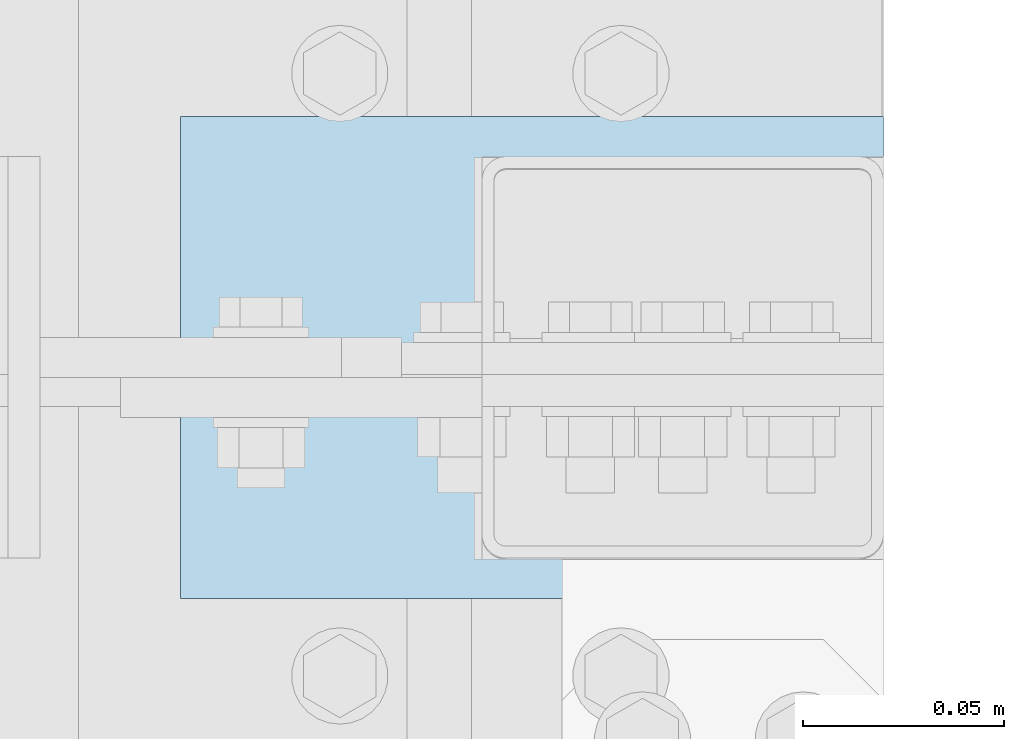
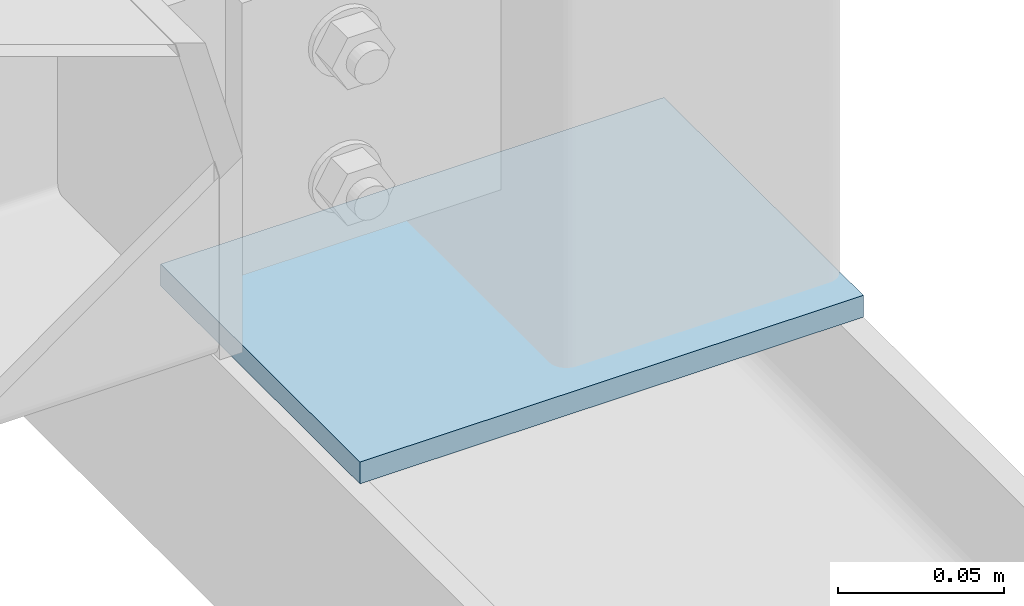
# One storey, part 172 of 271: 1 plate, 1 element without a shape of its own.
"""IFC2X3 building model written with IfcOpenShell, lengths in millimetres."""

import ifcopenshell
import ifcopenshell.guid

model = None  # the IFC model being written
_history = None  # IfcOwnerHistory: only IFC2X3 demands one
_inside = {}  # id of a spatial element -> (the spatial element, [elements in it])
_under = {}  # id of a project, library or spatial element -> (it, [spatial elements below it])
_declared = {}  # id of a project -> (the project, [libraries it declares])
_typed = {}  # id of a type object -> (the type object, [elements of that type])
_made_of = {}  # id of a material, layer set ... -> (it, [elements and type objects made of it])


def new_model(schema):
    """Start an empty IFC model of exactly this schema.

    Asked for "IFC4X3", IfcOpenShell would pick the latest addendum, in which some entities
    have other attributes; the version numbers below select the first issue.
    IFC2X3 requires an IfcOwnerHistory on every rooted entity: one is made here for all.
    """
    global model, _history
    if schema == "IFC4X3":
        model = ifcopenshell.file(schema_version=(4, 3, 0, 0))
    else:
        model = ifcopenshell.file(schema=schema)
    _inside.clear()
    _under.clear()
    _declared.clear()
    _typed.clear()
    _made_of.clear()
    _history = None
    if model.schema == "IFC2X3":
        org = make("IfcOrganization", Name="unknown")
        user = make(
            "IfcPersonAndOrganization",
            ThePerson=make("IfcPerson", FamilyName="unknown"),
            TheOrganization=org,
        )
        app = make(
            "IfcApplication",
            ApplicationDeveloper=org,
            Version="unknown",
            ApplicationFullName="unknown",
            ApplicationIdentifier="unknown",
        )
        _history = make(
            "IfcOwnerHistory",
            OwningUser=user,
            OwningApplication=app,
            ChangeAction="ADDED",
            CreationDate=0,
        )
    return model


def make(cls, **values):
    """One entity of the class cls with the attributes given. An attribute that is None is left unset."""
    return model.create_entity(
        cls, **{name: value for name, value in values.items() if value is not None}
    )


def rooted(cls, **values):
    """An entity with a GlobalId (a new one), such as an element, a storey or a relation."""
    return make(cls, GlobalId=ifcopenshell.guid.new(), OwnerHistory=_history, **values)


def si_unit(unit_type, name, prefix=None):
    """IfcSIUnit, for example si_unit("LENGTHUNIT", "METRE", prefix="MILLI")."""
    return make("IfcSIUnit", UnitType=unit_type, Prefix=prefix, Name=name)


def assignment(units):
    """IfcUnitAssignment: the units of a project."""
    return None if units is None else make("IfcUnitAssignment", Units=units)


def point(xyz):
    """IfcCartesianPoint."""
    return None if xyz is None else make("IfcCartesianPoint", Coordinates=xyz)


def direction(xyz):
    """IfcDirection."""
    return None if xyz is None else make("IfcDirection", DirectionRatios=xyz)


def frame(location, z_axis=None, x_axis=None):
    """IfcAxis2Placement3D, a coordinate frame: its origin and axes. An axis left out is left unset."""
    return make(
        "IfcAxis2Placement3D",
        Location=point(location),
        Axis=direction(z_axis),
        RefDirection=direction(x_axis),
    )


def origin_with_axes():
    """The frame at (0, 0, 0) with the z axis (0, 0, 1) and the x axis (1, 0, 0) written out."""
    return frame((0.0, 0.0, 0.0), z_axis=(0.0, 0.0, 1.0), x_axis=(1.0, 0.0, 0.0))


def place(relative_to, where):
    """IfcLocalPlacement: puts the frame where relative to a parent placement (None: the world)."""
    return make(
        "IfcLocalPlacement", PlacementRelTo=relative_to, RelativePlacement=where
    )


def context(
    kind, dimensions, precision=None, world=None, true_north=None, identifier=None
):
    """IfcGeometricRepresentationContext, for example the 3D "Model" context."""
    return make(
        "IfcGeometricRepresentationContext",
        ContextIdentifier=identifier,
        ContextType=kind,
        CoordinateSpaceDimension=dimensions,
        Precision=precision,
        WorldCoordinateSystem=world,
        TrueNorth=true_north,
    )


def subcontext(parent, identifier, kind, view, scale=None):
    """IfcGeometricRepresentationSubContext, for example "Body" below "Model"."""
    return make(
        "IfcGeometricRepresentationSubContext",
        ContextIdentifier=identifier,
        ContextType=kind,
        ParentContext=parent,
        TargetScale=scale,
        TargetView=view,
    )


def project(units=None, contexts=None):
    """IfcProject with its units and contexts."""
    return rooted(
        "IfcProject",
        Name="project",
        RepresentationContexts=contexts,
        UnitsInContext=assignment(units),
    )


def spatial(cls, under=None, at=None, **own):
    """A site, building, storey or space (cls), placed at a placement, below another one or the project."""
    s = rooted(cls, ObjectPlacement=at, **own)
    if under is not None:
        _under.setdefault(under.id(), (under, []))[1].append(s)
    return s


def polyline(points):
    """IfcPolyline through the points."""
    return make("IfcPolyline", Points=[point(p) for p in points])


def outline(outer, holes=None, kind="AREA"):
    """IfcArbitraryClosedProfileDef: a profile drawn as a closed curve; with holes, ...WithVoids."""
    if holes is None:
        return make("IfcArbitraryClosedProfileDef", ProfileType=kind, OuterCurve=outer)
    return make(
        "IfcArbitraryProfileDefWithVoids",
        ProfileType=kind,
        OuterCurve=outer,
        InnerCurves=holes,
    )


def extrude(swept, where, along, depth):
    """IfcExtrudedAreaSolid: the profile swept, set in the frame where, extruded along a direction by depth."""
    return make(
        "IfcExtrudedAreaSolid",
        SweptArea=swept,
        Position=where,
        ExtrudedDirection=direction(along),
        Depth=depth,
    )


def shape(context_of_items, identifier, shape_type, items):
    """IfcShapeRepresentation: the items that make up one representation, for example the "Body"."""
    return make(
        "IfcShapeRepresentation",
        ContextOfItems=context_of_items,
        RepresentationIdentifier=identifier,
        RepresentationType=shape_type,
        Items=items,
    )


def material(Name=None, Category=None):
    """IfcMaterial."""
    return make("IfcMaterial", Name=Name, Category=Category)


def made_of(thing, what):
    """Note that an element or type object is made of a material, layer set ...; save() writes the relation."""
    if what is not None:
        _made_of.setdefault(what.id(), (what, []))[1].append(thing)
    return thing


def type_object(cls, material=None, **own):
    """A type object (cls), such as IfcWallType, which elements share."""
    return made_of(rooted(cls, **own), material)


def element(
    cls,
    number,
    at=None,
    inside=None,
    cuts=None,
    type_object=None,
    material=None,
    context=None,
    identifier="Body",
    shape_type=None,
    held_by="IfcProductDefinitionShape",
    body=None,
    shapes=None,
    **own,
):
    """One element of the class cls, such as IfcWall. Its Tag is "e" and its number.

    at: its placement. inside: the storey or other place that contains it. cuts: it is an
    opening in that element (IfcRelVoidsElement). A single representation is given by context,
    identifier, shape_type and body (its items); several are given by shapes. held_by: the class
    of the entity that holds the representations. save() writes the other relations.
    """
    e = rooted(cls, Tag="e%d" % number, ObjectPlacement=at, **own)
    if body is not None:
        shapes = [shape(context, identifier, shape_type, body)]
    if shapes is not None:
        e.Representation = make(held_by, Representations=shapes)
    if inside is not None:
        _inside.setdefault(inside.id(), (inside, []))[1].append(e)
    if cuts is not None:
        rooted(
            "IfcRelVoidsElement", RelatingBuildingElement=cuts, RelatedOpeningElement=e
        )
    if type_object is not None:
        _typed.setdefault(type_object.id(), (type_object, []))[1].append(e)
    return made_of(e, material)


def aggregate(whole, parts):
    """IfcRelAggregates: a whole, such as a stair, and the parts it consists of."""
    return rooted("IfcRelAggregates", RelatingObject=whole, RelatedObjects=parts)


def save(model, path):
    """Write the relations noted so far, then the file.

    IfcRelAggregates (storeys below a building ...), IfcRelContainedInSpatialStructure (elements
    in a storey), IfcRelDefinesByType, IfcRelAssociatesMaterial and IfcRelDeclares: one each for
    every whole, place, type object, material and project.
    """
    for whole, parts in _under.values():
        aggregate(whole, parts)
    for where, things in _inside.values():
        rooted(
            "IfcRelContainedInSpatialStructure",
            RelatedElements=things,
            RelatingStructure=where,
        )
    for kind, things in _typed.values():
        rooted("IfcRelDefinesByType", RelatedObjects=things, RelatingType=kind)
    for what, things in _made_of.values():
        rooted("IfcRelAssociatesMaterial", RelatedObjects=things, RelatingMaterial=what)
    for by, libraries in _declared.values():
        rooted("IfcRelDeclares", RelatingContext=by, RelatedDefinitions=libraries)
    model.write(path)


model = new_model("IFC2X3")

# Units and contexts
model_context = context("Model", 3, precision=1e-05, world=origin_with_axes())
body_context = subcontext(model_context, "Body", "Model", "MODEL_VIEW")
ifc_project = project(units=[si_unit("LENGTHUNIT", "METRE", prefix="MILLI"), si_unit("AREAUNIT", "SQUARE_METRE"), si_unit("VOLUMEUNIT", "CUBIC_METRE"), si_unit("MASSUNIT", "GRAM", prefix="KILO"), si_unit("TIMEUNIT", "SECOND"), si_unit("PLANEANGLEUNIT", "RADIAN"), si_unit("SOLIDANGLEUNIT", "STERADIAN"), si_unit("THERMODYNAMICTEMPERATUREUNIT", "DEGREE_CELSIUS"), si_unit("LUMINOUSINTENSITYUNIT", "LUMEN")], contexts=[model_context])

# Site, building, storey
site_placement = place(None, origin_with_axes())
site = spatial("IfcSite", under=ifc_project, at=site_placement, Name="Undefined", CompositionType="ELEMENT")
building_placement = place(site_placement, origin_with_axes())
building = spatial("IfcBuilding", under=site, at=building_placement, Name="Undefined", CompositionType="ELEMENT")
storey_placement = place(building_placement, origin_with_axes())
storey = spatial("IfcBuildingStorey", under=building, at=storey_placement, Name="Undefined", CompositionType="ELEMENT", Elevation=0.0)

# Assembly, plate
assembly_placement = place(storey_placement, origin_with_axes())
assembly = element("IfcElementAssembly", 1, at=assembly_placement, inside=storey, AssemblyPlace="NOTDEFINED", PredefinedType="RIGID_FRAME")
ifc_material = material(Name="STEEL/S355JR")
plate_type = type_object("IfcPlateType", Name="BL8*120", PredefinedType="NOTDEFINED")
plate_placement = place(assembly_placement, frame((12533.3756870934, 2859.32498425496, 20053.8499999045), z_axis=(0.0, 0.0, -1.0), x_axis=(1.0, 0.0, 0.0)))
plate = element("IfcPlate", 2, at=plate_placement, type_object=plate_type, material=ifc_material, Name="BLACHA", ObjectType="BL8*120", context=body_context, shape_type="SweptSolid", body=[
    extrude(outline(polyline([(0.0, 0.0), (175.0, 0.0), (175.0, 120.0), (0.0, 120.0), (0.0, 0.0)])), frame((0.0, 0.0, -4.0), z_axis=(0.0, 0.0, 1.0), x_axis=(1.0, 0.0, 0.0)), (0.0, 0.0, 1.0), 8.0),
])
aggregate(assembly, [plate])

save(model, "model.ifc")
